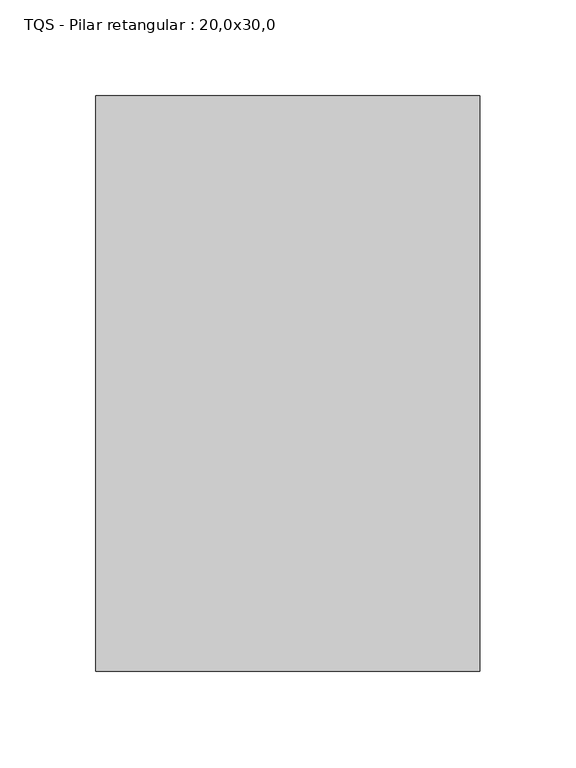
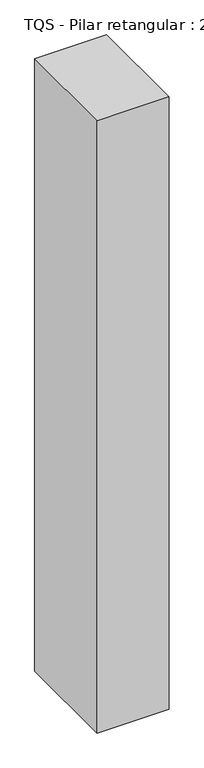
"""IFC4 building model written with IfcOpenShell, lengths in millimetres: column geometry, TQS - Pilar retangular : 20,0x30,0."""

import ifcopenshell
import ifcopenshell.guid

model = None  # the IFC model being written
_history = None  # IfcOwnerHistory: only IFC2X3 demands one
_inside = {}  # id of a spatial element -> (the spatial element, [elements in it])
_under = {}  # id of a project, library or spatial element -> (it, [spatial elements below it])
_declared = {}  # id of a project -> (the project, [libraries it declares])
_typed = {}  # id of a type object -> (the type object, [elements of that type])
_made_of = {}  # id of a material, layer set ... -> (it, [elements and type objects made of it])


def new_model(schema):
    """Start an empty IFC model of exactly this schema.

    Asked for "IFC4X3", IfcOpenShell would pick the latest addendum, in which some entities
    have other attributes; the version numbers below select the first issue.
    IFC2X3 requires an IfcOwnerHistory on every rooted entity: one is made here for all.
    """
    global model, _history
    if schema == "IFC4X3":
        model = ifcopenshell.file(schema_version=(4, 3, 0, 0))
    else:
        model = ifcopenshell.file(schema=schema)
    _inside.clear()
    _under.clear()
    _declared.clear()
    _typed.clear()
    _made_of.clear()
    _history = None
    if model.schema == "IFC2X3":
        org = make("IfcOrganization", Name="unknown")
        user = make(
            "IfcPersonAndOrganization",
            ThePerson=make("IfcPerson", FamilyName="unknown"),
            TheOrganization=org,
        )
        app = make(
            "IfcApplication",
            ApplicationDeveloper=org,
            Version="unknown",
            ApplicationFullName="unknown",
            ApplicationIdentifier="unknown",
        )
        _history = make(
            "IfcOwnerHistory",
            OwningUser=user,
            OwningApplication=app,
            ChangeAction="ADDED",
            CreationDate=0,
        )
    return model


def make(cls, **values):
    """One entity of the class cls with the attributes given. An attribute that is None is left unset."""
    return model.create_entity(
        cls, **{name: value for name, value in values.items() if value is not None}
    )


def rooted(cls, **values):
    """An entity with a GlobalId (a new one), such as an element, a storey or a relation."""
    return make(cls, GlobalId=ifcopenshell.guid.new(), OwnerHistory=_history, **values)


def si_unit(unit_type, name, prefix=None):
    """IfcSIUnit, for example si_unit("LENGTHUNIT", "METRE", prefix="MILLI")."""
    return make("IfcSIUnit", UnitType=unit_type, Prefix=prefix, Name=name)


def assignment(units):
    """IfcUnitAssignment: the units of a project."""
    return None if units is None else make("IfcUnitAssignment", Units=units)


def point(xyz):
    """IfcCartesianPoint."""
    return None if xyz is None else make("IfcCartesianPoint", Coordinates=xyz)


def direction(xyz):
    """IfcDirection."""
    return None if xyz is None else make("IfcDirection", DirectionRatios=xyz)


def frame(location, z_axis=None, x_axis=None):
    """IfcAxis2Placement3D, a coordinate frame: its origin and axes. An axis left out is left unset."""
    return make(
        "IfcAxis2Placement3D",
        Location=point(location),
        Axis=direction(z_axis),
        RefDirection=direction(x_axis),
    )


def origin():
    """The frame at (0, 0, 0) with its axes left unset."""
    return frame((0.0, 0.0, 0.0))


def place(relative_to, where):
    """IfcLocalPlacement: puts the frame where relative to a parent placement (None: the world)."""
    return make(
        "IfcLocalPlacement", PlacementRelTo=relative_to, RelativePlacement=where
    )


def context(
    kind, dimensions, precision=None, world=None, true_north=None, identifier=None
):
    """IfcGeometricRepresentationContext, for example the 3D "Model" context."""
    return make(
        "IfcGeometricRepresentationContext",
        ContextIdentifier=identifier,
        ContextType=kind,
        CoordinateSpaceDimension=dimensions,
        Precision=precision,
        WorldCoordinateSystem=world,
        TrueNorth=true_north,
    )


def project(units=None, contexts=None):
    """IfcProject with its units and contexts."""
    return rooted(
        "IfcProject",
        Name="project",
        RepresentationContexts=contexts,
        UnitsInContext=assignment(units),
    )


def spatial(cls, under=None, at=None, **own):
    """A site, building, storey or space (cls), placed at a placement, below another one or the project."""
    s = rooted(cls, ObjectPlacement=at, **own)
    if under is not None:
        _under.setdefault(under.id(), (under, []))[1].append(s)
    return s


def polyline(points):
    """IfcPolyline through the points."""
    return make("IfcPolyline", Points=[point(p) for p in points])


def outline(outer, holes=None, kind="AREA"):
    """IfcArbitraryClosedProfileDef: a profile drawn as a closed curve; with holes, ...WithVoids."""
    if holes is None:
        return make("IfcArbitraryClosedProfileDef", ProfileType=kind, OuterCurve=outer)
    return make(
        "IfcArbitraryProfileDefWithVoids",
        ProfileType=kind,
        OuterCurve=outer,
        InnerCurves=holes,
    )


def extrude(swept, where, along, depth):
    """IfcExtrudedAreaSolid: the profile swept, set in the frame where, extruded along a direction by depth."""
    return make(
        "IfcExtrudedAreaSolid",
        SweptArea=swept,
        Position=where,
        ExtrudedDirection=direction(along),
        Depth=depth,
    )


def shape(context_of_items, identifier, shape_type, items):
    """IfcShapeRepresentation: the items that make up one representation, for example the "Body"."""
    return make(
        "IfcShapeRepresentation",
        ContextOfItems=context_of_items,
        RepresentationIdentifier=identifier,
        RepresentationType=shape_type,
        Items=items,
    )


def source(mapping_origin, context_of_items, identifier, shape_type, items):
    """IfcRepresentationMap: a shape defined once, which mapped items show again and again."""
    return make(
        "IfcRepresentationMap",
        MappingOrigin=mapping_origin,
        MappedRepresentation=shape(context_of_items, identifier, shape_type, items),
    )


def transform(
    local_origin,
    x_axis=None,
    y_axis=None,
    z_axis=None,
    scale=None,
    scale2=None,
    scale3=None,
    uniform=True,
):
    """IfcCartesianTransformationOperator3D, or its non-uniform kind. x_axis, y_axis, z_axis: its Axis1, 2, 3."""
    if uniform:
        return make(
            "IfcCartesianTransformationOperator3D",
            Axis1=direction(x_axis),
            Axis2=direction(y_axis),
            LocalOrigin=point(local_origin),
            Scale=scale,
            Axis3=direction(z_axis),
        )
    return make(
        "IfcCartesianTransformationOperator3DnonUniform",
        Axis1=direction(x_axis),
        Axis2=direction(y_axis),
        LocalOrigin=point(local_origin),
        Scale=scale,
        Axis3=direction(z_axis),
        Scale2=scale2,
        Scale3=scale3,
    )


def mapped(mapping_source, mapping_target):
    """IfcMappedItem: shows the shape of a source again, moved by a transform."""
    return make(
        "IfcMappedItem", MappingSource=mapping_source, MappingTarget=mapping_target
    )


def made_of(thing, what):
    """Note that an element or type object is made of a material, layer set ...; save() writes the relation."""
    if what is not None:
        _made_of.setdefault(what.id(), (what, []))[1].append(thing)
    return thing


def element(
    cls,
    number,
    at=None,
    inside=None,
    cuts=None,
    type_object=None,
    material=None,
    context=None,
    identifier="Body",
    shape_type=None,
    held_by="IfcProductDefinitionShape",
    body=None,
    shapes=None,
    **own,
):
    """One element of the class cls, such as IfcWall. Its Tag is "e" and its number.

    at: its placement. inside: the storey or other place that contains it. cuts: it is an
    opening in that element (IfcRelVoidsElement). A single representation is given by context,
    identifier, shape_type and body (its items); several are given by shapes. held_by: the class
    of the entity that holds the representations. save() writes the other relations.
    """
    e = rooted(cls, Tag="e%d" % number, ObjectPlacement=at, **own)
    if body is not None:
        shapes = [shape(context, identifier, shape_type, body)]
    if shapes is not None:
        e.Representation = make(held_by, Representations=shapes)
    if inside is not None:
        _inside.setdefault(inside.id(), (inside, []))[1].append(e)
    if cuts is not None:
        rooted(
            "IfcRelVoidsElement", RelatingBuildingElement=cuts, RelatedOpeningElement=e
        )
    if type_object is not None:
        _typed.setdefault(type_object.id(), (type_object, []))[1].append(e)
    return made_of(e, material)


def aggregate(whole, parts):
    """IfcRelAggregates: a whole, such as a stair, and the parts it consists of."""
    return rooted("IfcRelAggregates", RelatingObject=whole, RelatedObjects=parts)


def save(model, path):
    """Write the relations noted so far, then the file.

    IfcRelAggregates (storeys below a building ...), IfcRelContainedInSpatialStructure (elements
    in a storey), IfcRelDefinesByType, IfcRelAssociatesMaterial and IfcRelDeclares: one each for
    every whole, place, type object, material and project.
    """
    for whole, parts in _under.values():
        aggregate(whole, parts)
    for where, things in _inside.values():
        rooted(
            "IfcRelContainedInSpatialStructure",
            RelatedElements=things,
            RelatingStructure=where,
        )
    for kind, things in _typed.values():
        rooted("IfcRelDefinesByType", RelatedObjects=things, RelatingType=kind)
    for what, things in _made_of.values():
        rooted("IfcRelAssociatesMaterial", RelatedObjects=things, RelatingMaterial=what)
    for by, libraries in _declared.values():
        rooted("IfcRelDeclares", RelatingContext=by, RelatedDefinitions=libraries)
    model.write(path)


def tqs_pilar_retangular_20_0x30_0_631425d6(model_context):
    return source(origin(), model_context, "Body", "SweptSolid", [
        extrude(outline(polyline([(100.0, 150.0), (100.0, -150.0), (-100.0, -150.0), (-100.0, 150.0), (100.0, 150.0)])), frame((0.0, 0.0, 900.0), z_axis=(0.0, 0.0, 1.0), x_axis=(1.0, 0.0, 0.0)), (0.0, 0.0, 1.0), 1800.0),
    ])


if __name__ == "__main__":
    model = new_model("IFC4")
    model_context = context("Model", 3, world=origin())
    ifc_project = project(units=[si_unit("LENGTHUNIT", "METRE", prefix="MILLI")], contexts=[model_context])
    site = spatial("IfcSite", under=ifc_project)
    building = spatial("IfcBuilding", under=site)
    placement = place(None, origin())
    tqs_pilar_retangular_20_0x30_0_shape = tqs_pilar_retangular_20_0x30_0_631425d6(model_context)
    element("IfcColumn", 1, ObjectType="TQS - Pilar retangular : 20,0x30,0", at=placement, inside=building, context=model_context, shape_type="MappedRepresentation", body=[
        mapped(tqs_pilar_retangular_20_0x30_0_shape, transform((0.0, 0.0, 0.0), x_axis=(1.0, 0.0, 0.0), y_axis=(0.0, 1.0, 0.0), z_axis=(0.0, 0.0, 1.0))),
    ])
    save(model, "model.ifc")
